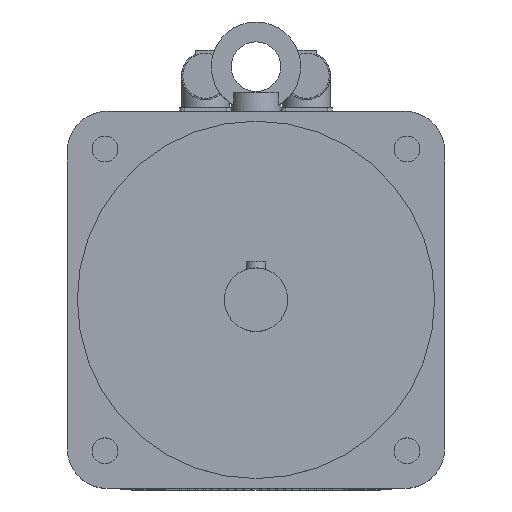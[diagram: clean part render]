
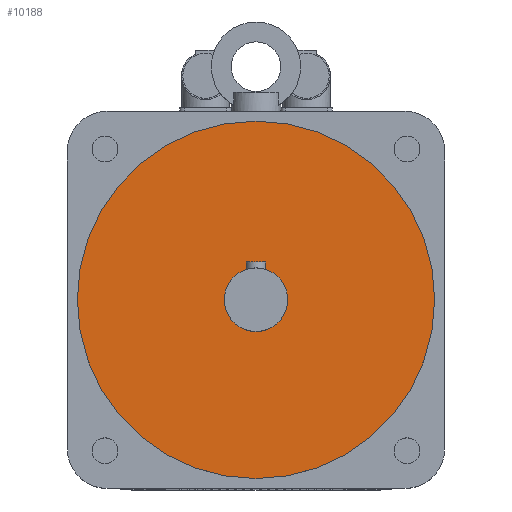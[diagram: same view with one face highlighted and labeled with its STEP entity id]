
A CAD part, top view. The second image highlights one B-rep face of the part: STEP entity #10188.
In plain terms, the highlighted planar face has unit normal (0, 0, 1).
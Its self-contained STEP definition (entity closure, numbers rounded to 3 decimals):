
#208=FACE_BOUND('',#973,.T.);
#290=FACE_OUTER_BOUND('',#972,.T.);
#972=EDGE_LOOP('',(#7169));
#973=EDGE_LOOP('',(#7170));
#1611=CIRCLE('',#10835,16.);
#1612=CIRCLE('',#10837,90.);
#4590=VERTEX_POINT('',#15520);
#4591=VERTEX_POINT('',#15523);
#5600=EDGE_CURVE('',#4590,#4590,#1611,.T.);
#5601=EDGE_CURVE('',#4591,#4591,#1612,.T.);
#7169=ORIENTED_EDGE('',*,*,#5601,.F.);
#7170=ORIENTED_EDGE('',*,*,#5600,.T.);
#9671=PLANE('',#10836);
#10188=ADVANCED_FACE('',(#290,#208),#9671,.T.);
#10835=AXIS2_PLACEMENT_3D('',#15521,#12180,#12181);
#10836=AXIS2_PLACEMENT_3D('',#15522,#12182,#12183);
#10837=AXIS2_PLACEMENT_3D('',#15524,#12184,#12185);
#12180=DIRECTION('center_axis',(0.,0.,-1.));
#12181=DIRECTION('ref_axis',(1.,0.,0.));
#12182=DIRECTION('center_axis',(0.,0.,1.));
#12183=DIRECTION('ref_axis',(1.,0.,0.));
#12184=DIRECTION('center_axis',(0.,0.,-1.));
#12185=DIRECTION('ref_axis',(1.,0.,0.));
#15520=CARTESIAN_POINT('',(0.,16.,397.));
#15521=CARTESIAN_POINT('Origin',(0.,0.,397.));
#15522=CARTESIAN_POINT('Origin',(0.,90.,397.));
#15523=CARTESIAN_POINT('',(0.,90.,397.));
#15524=CARTESIAN_POINT('Origin',(0.,0.,397.));
